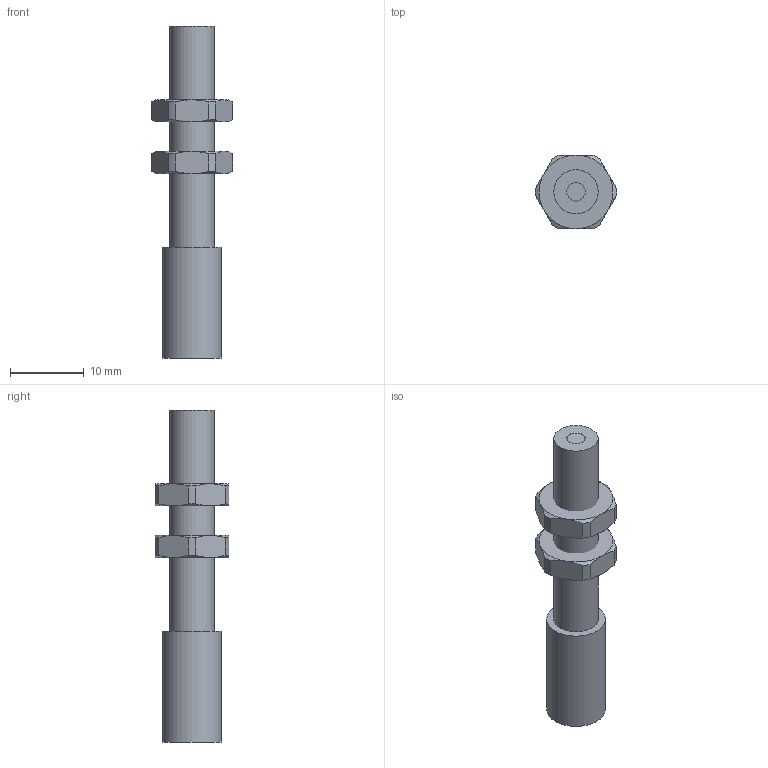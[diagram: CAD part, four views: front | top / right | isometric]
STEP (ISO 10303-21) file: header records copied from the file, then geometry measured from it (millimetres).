
FILE_DESCRIPTION(/* description */ ('LWL Typ-C 2.0'),/* implementation_level */ '2;1');
FILE_NAME(/* name */ 'T:\E-Mail-Zeichnungen\STEP\HOMEPAGE\LWL_Typ-C_2.0.stp',/* time_stamp */ '2015-04-20T09:57:12+02:00',/* author */ ('simone.schrank'),/* organization */ (''),/* preprocessor_version */ 'ST-DEVELOPER v15.6',/* originating_system */ 'Autodesk Inventor 2015',/* authorisation */ '');
FILE_SCHEMA (('AUTOMOTIVE_DESIGN { 1 0 10303 214 3 1 1 }'));
Length unit declared in the file: millimetre
Products named in the file (3): LWL_Typ-C_2.0; Mutter M6
Assembly tree (3 placements, depth 2):
  LWL_Typ-C_2.0
    LWL_Typ-C_2.0
    Mutter M6  x2
Bounding box: 10.99 x 10 x 45 mm (x, y, z)
Volume: 1991.5 mm3; surface area: 1581 mm2
Topology: 3 solids, 3 shells, 67 faces, 146 edges, 88 vertices
Faces by surface type: cone 28, plane 21, cylinder 18
Full cylindrical faces by diameter (mm): 2.5 x1, 5 x2, 6 x2, 8 x1
Entity records: 1048 total; most frequent: CARTESIAN_POINT 212, DIRECTION 172, ORIENTED_EDGE 144, AXIS2_PLACEMENT_3D 80, EDGE_CURVE 72, EDGE_LOOP 50, VERTEX_POINT 48, FACE_OUTER_BOUND 38
